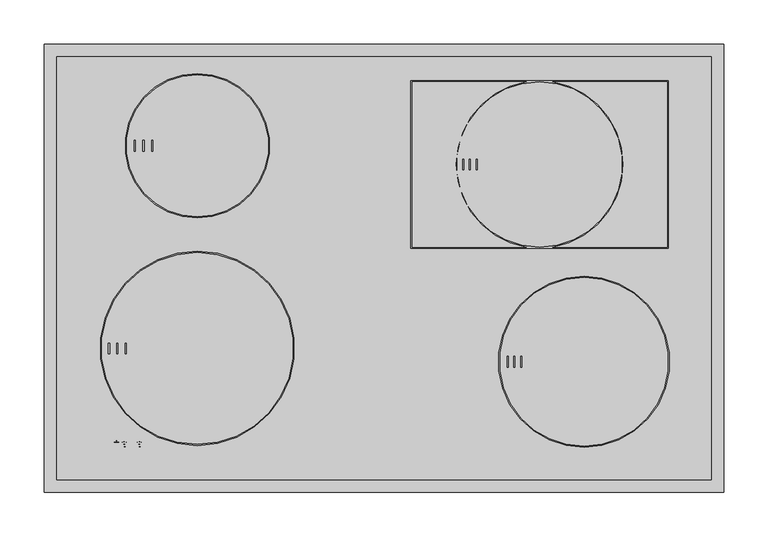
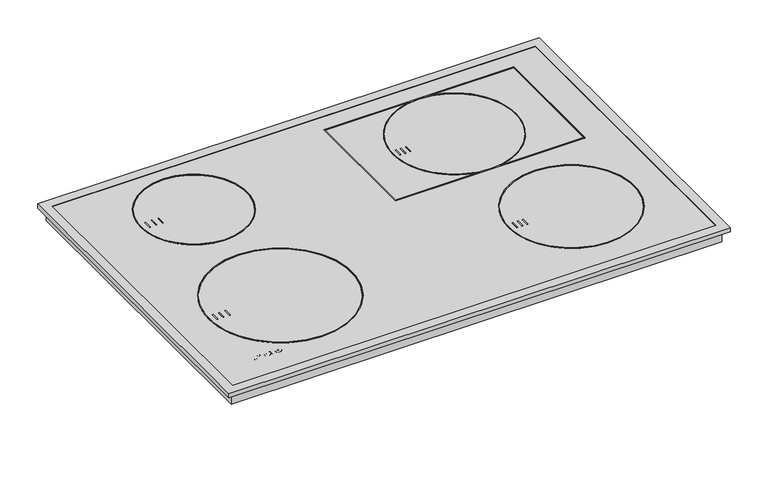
"""IFC4 building model written with IfcOpenShell, lengths in millimetres: proxy geometry, 11153870_I_KM7210FR : 26721010_I_11153870_KM7210FR."""

from ifc_helpers import new_model, si_unit, point, frame, frame_2d, origin, place, context, project, spatial, polyline, circle_curve, ellipse_curve, trimmed, segment, composite_curve, outline, extrude, faceted_brep, source, transform, mapped, element, save
from ifc_brep_helpers import plane_surface, cylinder_surface, revolved_surface, extruded_surface, advanced_brep


def specialty_equipment_fa1b22ea(model_context):
    return source(origin(), model_context, "Body", "SolidModel", [
        extrude(outline(polyline([(374.0, 496.0), (374.0, 8.0), (-374.0, 8.0), (-374.0, 496.0), (374.0, 496.0)])), frame((0.0, 0.0, -18.0), z_axis=(0.0, 0.0, 1.0), x_axis=(1.0, 0.0, 0.0)), (0.0, 0.0, 1.0), 20.0),
        extrude(outline(polyline([(-192.8, 325.7), (-214.2, 325.7), (-214.2, 409.1), (-192.8, 409.1), (-192.8, 459.3), (213.2, 459.3), (213.2, 88.3), (-192.8, 88.3), (-192.8, 325.7)])), frame((0.0, 0.0, -47.7), z_axis=(0.0, 0.0, 1.0), x_axis=(1.0, 0.0, 0.0)), (0.0, 0.0, 1.0), 29.7),
        extrude(outline(polyline([(379.0, 498.0), (379.0, 1.0), (-379.0, 1.0), (-379.0, 498.0), (379.0, 498.0)])), frame((0.0, 0.0, 2.0), z_axis=(0.0, 0.0, 1.0), x_axis=(1.0, 0.0, 0.0)), (0.0, 0.0, 1.0), 4.0),
        faceted_brep([(367.9, 489.9, 7.0), (367.9, 489.9, 6.0), (367.9, 14.1, 6.0), (367.9, 14.1, 7.0), (382.0, 504.0, 0.0), (382.0, 504.0, 7.0), (382.0, 0.0, 7.0), (382.0, 0.0, 0.0), (381.0, 503.0, 6.0), (381.0, 503.0, 0.0), (381.0, 1.0, 0.0), (381.0, 1.0, 6.0), (-367.9, 14.1, 6.0), (-367.9, 14.1, 7.0), (-382.0, 0.0, 7.0), (-382.0, 0.0, 0.0), (-381.0, 1.0, 0.0), (-381.0, 1.0, 6.0), (-367.9, 489.9, 6.0), (-367.9, 489.9, 7.0), (-382.0, 504.0, 7.0), (-382.0, 504.0, 0.0), (-381.0, 503.0, 0.0), (-381.0, 503.0, 6.0)], [[[0, 1, 2, 3]], [[4, 5, 6, 7]], [[8, 9, 10, 11]], [[3, 2, 12, 13]], [[7, 6, 14, 15]], [[11, 10, 16, 17]], [[13, 12, 18, 19]], [[15, 14, 20, 21]], [[17, 16, 22, 23]], [[19, 18, 1, 0]], [[5, 20, 14, 6], [3, 13, 19, 0]], [[21, 20, 5, 4]], [[7, 15, 21, 4], [9, 22, 16, 10]], [[23, 22, 9, 8]], [[11, 17, 23, 8], [1, 18, 12, 2]]]),
        extrude(outline(polyline([(151.2772603, 422.5), (143.9, 422.5), (143.9, 423.7557039), (150.0215564, 423.7557039), (150.0215564, 427.0519266), (144.370889, 427.0519266), (144.370889, 428.3076304), (150.0215564, 428.3076304), (150.0215564, 431.2899271), (144.056963, 431.2899271), (144.056963, 432.545631), (151.2772603, 432.545631), (151.2772603, 422.5)])), frame((0.0, 0.0, -78.7), z_axis=(0.0, 0.0, 1.0), x_axis=(1.0, 0.0, 0.0)), (0.0, 0.0, 1.0), 1.0),
        extrude(outline(polyline([(142.0164442, 422.5), (135.7379248, 422.5), (135.7379248, 423.7557039), (140.7607403, 423.7557039), (140.7607403, 432.545631), (142.0164442, 432.545631), (142.0164442, 422.5)])), frame((0.0, 0.0, -78.7), z_axis=(0.0, 0.0, 1.0), x_axis=(1.0, 0.0, 0.0)), (0.0, 0.0, 1.0), 1.0),
        extrude(outline(composite_curve([segment(trimmed(circle_curve(frame_2d((143.9, 427.5)), 7.5), [point((143.9, 435.0))], [point((143.9, 420.0))], False, "CARTESIAN"), True, "CONTINUOUS"), segment(trimmed(circle_curve(frame_2d((143.9, 427.5)), 7.5), [point((143.9, 420.0))], [point((143.9, 435.0))], False, "CARTESIAN"), True, "CONTINUOUS")], self_intersect=False)), frame((0.0, 0.0, -77.7), z_axis=(0.0, 0.0, 1.0), x_axis=(1.0, 0.0, 0.0)), (0.0, 0.0, 1.0), 30.0),
        extrude(outline(polyline([(103.8, 375.0), (105.0, 375.0), (105.0, 363.0), (103.8, 363.0), (103.8, 375.0)])), frame((0.0, 0.0, 6.0), z_axis=(0.0, 0.0, 1.0), x_axis=(1.0, 0.0, 0.0)), (0.0, 0.0, 1.0), 1.0),
        extrude(outline(polyline([(96.1, 375.0), (97.3, 375.0), (97.3, 363.0), (96.1, 363.0), (96.1, 375.0)])), frame((0.0, 0.0, 6.0), z_axis=(0.0, 0.0, 1.0), x_axis=(1.0, 0.0, 0.0)), (0.0, 0.0, 1.0), 1.0),
        extrude(outline(polyline([(88.4, 375.0), (89.6, 375.0), (89.6, 363.0), (88.4, 363.0), (88.4, 375.0)])), frame((0.0, 0.0, 6.0), z_axis=(0.0, 0.0, 1.0), x_axis=(1.0, 0.0, 0.0)), (0.0, 0.0, 1.0), 1.0),
        extrude(outline(polyline([(319.7, 463.2), (319.7, 274.8), (30.3, 274.8), (30.3, 463.2), (319.7, 463.2)]), holes=[composite_curve([segment(trimmed(circle_curve(frame_2d((175.0, 369.0)), 93.0), [point((175.0, 462.0))], [point((175.0, 276.0))], True, "CARTESIAN"), True, "CONTINUOUS"), segment(trimmed(circle_curve(frame_2d((175.0, 369.0)), 93.0), [point((175.0, 276.0))], [point((175.0, 462.0))], True, "CARTESIAN"), True, "CONTINUOUS")], self_intersect=False), composite_curve([segment(trimmed(circle_curve(frame_2d((175.0, 369.0)), 94.2), [point((189.9879952, 462.0))], [point((189.9879952, 276.0))], False, "CARTESIAN"), True, "CONTINUOUS"), segment(polyline([(189.9879952, 276.0), (318.5, 276.0), (318.5, 462.0), (189.9879952, 462.0)]), True, "CONTINUOUS")], self_intersect=False), composite_curve([segment(trimmed(circle_curve(frame_2d((175.0, 369.0)), 94.2), [point((160.0120048, 276.0))], [point((160.0120048, 462.0))], False, "CARTESIAN"), True, "CONTINUOUS"), segment(polyline([(160.0120048, 462.0), (31.5, 462.0), (31.5, 276.0), (160.0120048, 276.0)]), True, "CONTINUOUS")], self_intersect=False)]), frame((0.0, 0.0, 6.0), z_axis=(0.0, 0.0, 1.0), x_axis=(1.0, 0.0, 0.0)), (0.0, 0.0, 1.0), 1.0),
        extrude(outline(composite_curve([segment(trimmed(circle_curve(frame_2d((-210.0, 390.0)), 81.2), [point((-210.0, 471.2))], [point((-210.0, 308.8))], False, "CARTESIAN"), True, "CONTINUOUS"), segment(trimmed(circle_curve(frame_2d((-210.0, 390.0)), 81.2), [point((-210.0, 308.8))], [point((-210.0, 471.2))], False, "CARTESIAN"), True, "CONTINUOUS")], self_intersect=False), holes=[composite_curve([segment(trimmed(circle_curve(frame_2d((-210.0, 390.0)), 80.0), [point((-210.0, 470.0))], [point((-210.0, 310.0))], True, "CARTESIAN"), True, "CONTINUOUS"), segment(trimmed(circle_curve(frame_2d((-210.0, 390.0)), 80.0), [point((-210.0, 310.0))], [point((-210.0, 470.0))], True, "CARTESIAN"), True, "CONTINUOUS")], self_intersect=False)]), frame((0.0, 0.0, 6.0), z_axis=(0.0, 0.0, 1.0), x_axis=(1.0, 0.0, 0.0)), (0.0, 0.0, 1.0), 1.0),
        extrude(outline(polyline([(-261.2, 396.0), (-260.0, 396.0), (-260.0, 384.0), (-261.2, 384.0), (-261.2, 396.0)])), frame((0.0, 0.0, 6.0), z_axis=(0.0, 0.0, 1.0), x_axis=(1.0, 0.0, 0.0)), (0.0, 0.0, 1.0), 1.0),
        extrude(outline(polyline([(-271.2, 396.0), (-270.0, 396.0), (-270.0, 384.0), (-271.2, 384.0), (-271.2, 396.0)])), frame((0.0, 0.0, 6.0), z_axis=(0.0, 0.0, 1.0), x_axis=(1.0, 0.0, 0.0)), (0.0, 0.0, 1.0), 1.0),
        extrude(outline(polyline([(-281.2, 396.0), (-280.0, 396.0), (-280.0, 384.0), (-281.2, 384.0), (-281.2, 396.0)])), frame((0.0, 0.0, 6.0), z_axis=(0.0, 0.0, 1.0), x_axis=(1.0, 0.0, 0.0)), (0.0, 0.0, 1.0), 1.0),
        extrude(outline(composite_curve([segment(trimmed(circle_curve(frame_2d((225.0, 147.0)), 96.2), [point((225.0, 243.2))], [point((225.0, 50.8))], False, "CARTESIAN"), True, "CONTINUOUS"), segment(trimmed(circle_curve(frame_2d((225.0, 147.0)), 96.2), [point((225.0, 50.8))], [point((225.0, 243.2))], False, "CARTESIAN"), True, "CONTINUOUS")], self_intersect=False), holes=[composite_curve([segment(trimmed(circle_curve(frame_2d((225.0, 147.0)), 95.0), [point((225.0, 242.0))], [point((225.0, 52.0))], True, "CARTESIAN"), True, "CONTINUOUS"), segment(trimmed(circle_curve(frame_2d((225.0, 147.0)), 95.0), [point((225.0, 52.0))], [point((225.0, 242.0))], True, "CARTESIAN"), True, "CONTINUOUS")], self_intersect=False)]), frame((0.0, 0.0, 6.0), z_axis=(0.0, 0.0, 1.0), x_axis=(1.0, 0.0, 0.0)), (0.0, 0.0, 1.0), 1.0),
        extrude(outline(polyline([(153.8, 153.0), (155.0, 153.0), (155.0, 141.0), (153.8, 141.0), (153.8, 153.0)])), frame((0.0, 0.0, 6.0), z_axis=(0.0, 0.0, 1.0), x_axis=(1.0, 0.0, 0.0)), (0.0, 0.0, 1.0), 1.0),
        extrude(outline(polyline([(146.1, 153.0), (147.3, 153.0), (147.3, 141.0), (146.1, 141.0), (146.1, 153.0)])), frame((0.0, 0.0, 6.0), z_axis=(0.0, 0.0, 1.0), x_axis=(1.0, 0.0, 0.0)), (0.0, 0.0, 1.0), 1.0),
        extrude(outline(polyline([(138.4, 153.0), (139.6, 153.0), (139.6, 141.0), (138.4, 141.0), (138.4, 153.0)])), frame((0.0, 0.0, 6.0), z_axis=(0.0, 0.0, 1.0), x_axis=(1.0, 0.0, 0.0)), (0.0, 0.0, 1.0), 1.0),
        extrude(outline(composite_curve([segment(trimmed(circle_curve(frame_2d((-210.0, 162.0)), 109.2), [point((-210.0, 271.2))], [point((-210.0, 52.8))], False, "CARTESIAN"), True, "CONTINUOUS"), segment(trimmed(circle_curve(frame_2d((-210.0, 162.0)), 109.2), [point((-210.0, 52.8))], [point((-210.0, 271.2))], False, "CARTESIAN"), True, "CONTINUOUS")], self_intersect=False), holes=[composite_curve([segment(trimmed(circle_curve(frame_2d((-210.0, 162.0)), 108.0), [point((-210.0, 270.0))], [point((-210.0, 54.0))], True, "CARTESIAN"), True, "CONTINUOUS"), segment(trimmed(circle_curve(frame_2d((-210.0, 162.0)), 108.0), [point((-210.0, 54.0))], [point((-210.0, 270.0))], True, "CARTESIAN"), True, "CONTINUOUS")], self_intersect=False)]), frame((0.0, 0.0, 6.0), z_axis=(0.0, 0.0, 1.0), x_axis=(1.0, 0.0, 0.0)), (0.0, 0.0, 1.0), 1.0),
        extrude(outline(polyline([(-310.0, 168.0), (-308.8, 168.0), (-308.8, 156.0), (-310.0, 156.0), (-310.0, 168.0)])), frame((0.0, 0.0, 6.0), z_axis=(0.0, 0.0, 1.0), x_axis=(1.0, 0.0, 0.0)), (0.0, 0.0, 1.0), 1.0),
        extrude(outline(polyline([(-300.6, 168.0), (-299.4, 168.0), (-299.4, 156.0), (-300.6, 156.0), (-300.6, 168.0)])), frame((0.0, 0.0, 6.0), z_axis=(0.0, 0.0, 1.0), x_axis=(1.0, 0.0, 0.0)), (0.0, 0.0, 1.0), 1.0),
        extrude(outline(polyline([(-291.2, 168.0), (-290.0, 168.0), (-290.0, 156.0), (-291.2, 156.0), (-291.2, 168.0)])), frame((0.0, 0.0, 6.0), z_axis=(0.0, 0.0, 1.0), x_axis=(1.0, 0.0, 0.0)), (0.0, 0.0, 1.0), 1.0),
        advanced_brep(
        [(-276.14, 52.3948833, 6.0802537), (-276.14, 53.2028828, 6.0811551), (-270.788, 53.2028828, 6.0811551), (-280.1, 53.2028828, 6.0811551), (-277.9, 50.4988845, 6.0781386), (-270.924, 52.3948833, 6.0802537), (-273.34, 52.3948833, 6.0802537), (-275.244, 51.4988838, 6.0792542), (-276.14, 54.2268821, 6.0822974), (-276.14, 55.0988816, 6.0832701), (-274.772, 55.0988816, 6.0832701), (-274.772, 54.2268821, 6.0822974), (-276.14, 52.3959988, 5.0802543), (-275.244, 51.4999994, 5.0792548), (-273.34, 52.3959988, 5.0802543), (-270.924, 52.3959988, 5.0802543), (-277.9, 50.5, 5.0781393), (-280.1, 53.2039983, 5.0811557), (-270.788, 53.2039983, 5.0811557), (-276.14, 53.2039983, 5.0811557), (-276.14, 54.2279977, 5.082298), (-274.772, 54.2279977, 5.082298), (-274.772, 55.0999971, 5.0832707), (-276.14, 55.0999971, 5.0832707)],
        [
            (0, 1),
            (1, 2),
            (2, 3, ellipse_curve(frame((-275.444, 53.2028828, 6.0811551), z_axis=(0.0, -0.0011155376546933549, 0.9999993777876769), x_axis=(-1.0, 0.0, 0.0)), 4.656, 3.848)),
            (3, 4, circle_curve(frame((-277.0039564, 53.4748826, 6.0814585), z_axis=(0.0, -0.0011155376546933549, 0.9999993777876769), x_axis=(0.0, -0.9999993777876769, -0.0011155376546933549)), 3.1079688)),
            (4, 5, circle_curve(frame((-275.5372064, 55.5868813, 6.0838145), z_axis=(0.0, -0.0011155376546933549, 0.9999993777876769), x_axis=(0.0, -0.9999993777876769, -0.0011155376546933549)), 5.6098607)),
            (5, 6),
            (6, 7, circle_curve(frame((-274.8529412, 53.1388828, 6.0810837), z_axis=(0.0, 0.0011155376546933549, -0.9999993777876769), x_axis=(0.0, -0.9999993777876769, -0.0011155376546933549)), 1.6859795)),
            (7, 0, circle_curve(frame((-275.244, 52.3948833, 6.0802537), z_axis=(0.0, 0.0011155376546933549, -0.9999993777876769), x_axis=(0.0, -0.9999993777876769, -0.0011155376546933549)), 0.896)),
            (8, 9),
            (9, 10, circle_curve(frame((-275.456, 55.0988816, 6.0832701), z_axis=(0.0, 0.0011155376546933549, -0.9999993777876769), x_axis=(0.0, -0.9999993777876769, -0.0011155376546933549)), 0.684)),
            (10, 11),
            (11, 8),
            (12, 13, circle_curve(frame((-275.244, 52.3959988, 5.0802543), z_axis=(0.0, -0.0011155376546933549, 0.9999993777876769), x_axis=(0.0, -0.9999993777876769, -0.0011155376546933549)), 0.896)),
            (13, 14, circle_curve(frame((-274.8529412, 53.1399984, 5.0810843), z_axis=(0.0, -0.0011155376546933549, 0.9999993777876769), x_axis=(0.0, -0.9999993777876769, -0.0011155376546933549)), 1.6859795)),
            (14, 15),
            (15, 16, circle_curve(frame((-275.5372064, 55.5879968, 5.0838151), z_axis=(0.0, 0.0011155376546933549, -0.9999993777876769), x_axis=(0.0, -0.9999993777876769, -0.0011155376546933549)), 5.6098607)),
            (16, 17, circle_curve(frame((-277.0039564, 53.4759981, 5.0814591), z_axis=(0.0, 0.0011155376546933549, -0.9999993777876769), x_axis=(0.0, -0.9999993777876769, -0.0011155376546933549)), 3.1079688)),
            (17, 18, ellipse_curve(frame((-275.444, 53.2039983, 5.0811557), z_axis=(0.0, 0.0011155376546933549, -0.9999993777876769), x_axis=(-1.0, 0.0, 0.0)), 4.656, 3.848)),
            (18, 19),
            (19, 12),
            (20, 21),
            (21, 22),
            (22, 23, circle_curve(frame((-275.456, 55.0999971, 5.0832707), z_axis=(0.0, -0.0011155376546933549, 0.9999993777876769), x_axis=(0.0, -0.9999993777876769, -0.0011155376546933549)), 0.684)),
            (23, 20),
            (0, 12),
            (19, 1),
            (18, 2),
            (5, 15),
            (14, 6),
            (17, 3),
            (13, 7),
            (16, 4),
            (8, 20),
            (23, 9),
            (22, 10),
            (21, 11),
        ],
        [
            plane_surface(frame((-276.14, 53.2028828, 6.0811551), z_axis=(0.0, -0.0011155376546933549, 0.9999993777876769), x_axis=(0.0, 0.9999993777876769, 0.0011155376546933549))),
            plane_surface(frame((-276.14, 53.2039983, 5.0811557), z_axis=(0.0, 0.0011155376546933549, -0.9999993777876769), x_axis=(0.0, -0.9999993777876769, -0.0011155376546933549))),
            plane_surface(frame((-276.14, 52.3948833, 6.0802537), z_axis=(1.0000000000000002, 0.0, 0.0), x_axis=(0.0, 0.001115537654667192, -0.999999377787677))),
            plane_surface(frame((-276.14, 53.2028828, 6.0811551), z_axis=(0.0, -0.999999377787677, -0.001115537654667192), x_axis=(0.0, 0.001115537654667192, -0.999999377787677))),
            plane_surface(frame((-270.924, 52.3948833, 6.0802537), z_axis=(0.0, 0.999999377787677, 0.001115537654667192), x_axis=(0.0, 0.001115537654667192, -0.999999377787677))),
            extruded_surface(trimmed(ellipse_curve(frame((-275.444, 53.2051139, 4.0811563), z_axis=(0.0, -0.0011155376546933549, 0.9999993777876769), x_axis=(-1.0, 0.0, 0.0)), 4.656, 3.848), [point((-270.788, 53.2051139, 4.0811563))], [point((-280.1, 53.2051139, 4.0811563))], True, "CARTESIAN"), (0.0, -0.001115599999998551, 0.9999994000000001), 1.00000002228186),
            revolved_surface(polyline([(-274.8529412, 51.454019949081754, 5.079203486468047), (-274.8529412, 51.45290441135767, 6.079202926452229)]), (-274.8529412, 53.1399984, 5.0810843), (0.0, 0.0011155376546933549, -0.9999993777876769)),
            revolved_surface(polyline([(-275.244, 51.49999935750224, 5.079254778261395), (-275.244, 51.49888381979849, 6.079254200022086)]), (-275.244, 52.3959988, 5.0802543), (0.0, 0.0011155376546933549, -0.9999993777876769)),
            cylinder_surface(frame((-277.0039564, 53.4759981, 5.0814591), z_axis=(0.0, -0.0011155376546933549, 0.9999993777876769), x_axis=(0.0, -0.9999993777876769, -0.0011155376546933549)), 3.1079688),
            cylinder_surface(frame((-275.5372064, 55.5879968, 5.0838151), z_axis=(0.0, -0.0011155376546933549, 0.9999993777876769), x_axis=(0.0, -0.9999993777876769, -0.0011155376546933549)), 5.6098607),
            plane_surface(frame((-276.14, 54.2268821, 6.0822974), z_axis=(1.0000000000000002, 0.0, 0.0), x_axis=(0.0, 0.001115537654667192, -0.999999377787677))),
            revolved_surface(polyline([(-275.456, 54.415997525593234, 5.08250767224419), (-275.456, 54.41488198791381, 6.082507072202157)]), (-275.456, 55.0999971, 5.0832707), (0.0, 0.0011155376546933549, -0.9999993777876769)),
            plane_surface(frame((-274.772, 55.0988816, 6.0832701), z_axis=(-1.0000000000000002, 0.0, 0.0), x_axis=(0.0, 0.001115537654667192, -0.999999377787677))),
            plane_surface(frame((-274.772, 54.2268821, 6.0822974), z_axis=(0.0, 0.999999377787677, 0.001115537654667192), x_axis=(0.0, 0.001115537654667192, -0.999999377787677))),
        ],
        [
            (0, [[1, 2, 3, 4, 5, 6, 7, 8], [9, 10, 11, 12]]),
            (1, [[13, 14, 15, 16, 17, 18, 19, 20], [21, 22, 23, 24]]),
            (2, [[-1, 25, -20, 26]]),
            (3, [[-2, -26, -19, 27]]),
            (4, [[-6, 28, -15, 29]]),
            (5, [[-3, -27, -18, 30]]),
            (6, [[-7, -29, -14, 31]]),
            (7, [[-8, -31, -13, -25]]),
            (8, [[-4, -30, -17, 32]]),
            (9, [[-5, -32, -16, -28]]),
            (10, [[-9, 33, -24, 34]]),
            (11, [[-10, -34, -23, 35]]),
            (12, [[-11, -35, -22, 36]]),
            (13, [[-12, -36, -21, -33]]),
        ],
    ),
        advanced_brep(
        [(-292.836, 52.3948833, 6.0802537), (-292.836, 53.2028828, 6.0811551), (-287.484, 53.2028828, 6.0811551), (-296.796, 53.2028828, 6.0811551), (-294.596, 50.4988845, 6.0781386), (-287.62, 52.3948833, 6.0802537), (-290.036, 52.3948833, 6.0802537), (-291.94, 51.4988838, 6.0792542), (-292.836, 54.2268821, 6.0822974), (-292.836, 55.0988816, 6.0832701), (-291.468, 55.0988816, 6.0832701), (-291.468, 54.2268821, 6.0822974), (-292.836, 52.3959988, 5.0802543), (-291.94, 51.4999994, 5.0792548), (-290.036, 52.3959988, 5.0802543), (-287.62, 52.3959988, 5.0802543), (-294.596, 50.5, 5.0781393), (-296.796, 53.2039983, 5.0811557), (-287.484, 53.2039983, 5.0811557), (-292.836, 53.2039983, 5.0811557), (-292.836, 54.2279977, 5.082298), (-291.468, 54.2279977, 5.082298), (-291.468, 55.0999971, 5.0832707), (-292.836, 55.0999971, 5.0832707)],
        [
            (0, 1),
            (1, 2),
            (2, 3, ellipse_curve(frame((-292.14, 53.2028828, 6.0811551), z_axis=(0.0, -0.0011155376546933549, 0.9999993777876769), x_axis=(-1.0, 0.0, 0.0)), 4.656, 3.848)),
            (3, 4, circle_curve(frame((-293.6999564, 53.4748826, 6.0814585), z_axis=(0.0, -0.0011155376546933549, 0.9999993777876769), x_axis=(0.0, -0.9999993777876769, -0.0011155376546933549)), 3.1079688)),
            (4, 5, circle_curve(frame((-292.2332064, 55.5868813, 6.0838145), z_axis=(0.0, -0.0011155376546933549, 0.9999993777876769), x_axis=(0.0, -0.9999993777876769, -0.0011155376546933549)), 5.6098607)),
            (5, 6),
            (6, 7, circle_curve(frame((-291.5489412, 53.1388828, 6.0810837), z_axis=(0.0, 0.0011155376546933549, -0.9999993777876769), x_axis=(0.0, -0.9999993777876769, -0.0011155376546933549)), 1.6859795)),
            (7, 0, circle_curve(frame((-291.94, 52.3948833, 6.0802537), z_axis=(0.0, 0.0011155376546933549, -0.9999993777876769), x_axis=(0.0, -0.9999993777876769, -0.0011155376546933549)), 0.896)),
            (8, 9),
            (9, 10, circle_curve(frame((-292.152, 55.0988816, 6.0832701), z_axis=(0.0, 0.0011155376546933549, -0.9999993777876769), x_axis=(0.0, -0.9999993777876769, -0.0011155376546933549)), 0.684)),
            (10, 11),
            (11, 8),
            (12, 13, circle_curve(frame((-291.94, 52.3959988, 5.0802543), z_axis=(0.0, -0.0011155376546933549, 0.9999993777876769), x_axis=(0.0, -0.9999993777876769, -0.0011155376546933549)), 0.896)),
            (13, 14, circle_curve(frame((-291.5489412, 53.1399984, 5.0810843), z_axis=(0.0, -0.0011155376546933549, 0.9999993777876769), x_axis=(0.0, -0.9999993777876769, -0.0011155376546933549)), 1.6859795)),
            (14, 15),
            (15, 16, circle_curve(frame((-292.2332064, 55.5879968, 5.0838151), z_axis=(0.0, 0.0011155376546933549, -0.9999993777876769), x_axis=(0.0, -0.9999993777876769, -0.0011155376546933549)), 5.6098607)),
            (16, 17, circle_curve(frame((-293.6999564, 53.4759981, 5.0814591), z_axis=(0.0, 0.0011155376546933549, -0.9999993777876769), x_axis=(0.0, -0.9999993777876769, -0.0011155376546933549)), 3.1079688)),
            (17, 18, ellipse_curve(frame((-292.14, 53.2039983, 5.0811557), z_axis=(0.0, 0.0011155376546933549, -0.9999993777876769), x_axis=(-1.0, 0.0, 0.0)), 4.656, 3.848)),
            (18, 19),
            (19, 12),
            (20, 21),
            (21, 22),
            (22, 23, circle_curve(frame((-292.152, 55.0999971, 5.0832707), z_axis=(0.0, -0.0011155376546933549, 0.9999993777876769), x_axis=(0.0, -0.9999993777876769, -0.0011155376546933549)), 0.684)),
            (23, 20),
            (0, 12),
            (19, 1),
            (18, 2),
            (5, 15),
            (14, 6),
            (17, 3),
            (13, 7),
            (16, 4),
            (8, 20),
            (23, 9),
            (22, 10),
            (21, 11),
        ],
        [
            plane_surface(frame((-292.836, 53.2028828, 6.0811551), z_axis=(0.0, -0.0011155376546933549, 0.9999993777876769), x_axis=(0.0, 0.9999993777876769, 0.0011155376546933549))),
            plane_surface(frame((-292.836, 53.2039983, 5.0811557), z_axis=(0.0, 0.0011155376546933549, -0.9999993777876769), x_axis=(0.0, -0.9999993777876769, -0.0011155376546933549))),
            plane_surface(frame((-292.836, 52.3948833, 6.0802537), z_axis=(1.0000000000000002, 0.0, 0.0), x_axis=(0.0, 0.001115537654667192, -0.999999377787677))),
            plane_surface(frame((-292.836, 53.2028828, 6.0811551), z_axis=(0.0, -0.999999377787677, -0.001115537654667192), x_axis=(0.0, 0.001115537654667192, -0.999999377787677))),
            plane_surface(frame((-287.62, 52.3948833, 6.0802537), z_axis=(0.0, 0.999999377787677, 0.001115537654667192), x_axis=(0.0, 0.001115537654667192, -0.999999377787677))),
            extruded_surface(trimmed(ellipse_curve(frame((-292.14, 53.2051139, 4.0811563), z_axis=(0.0, -0.0011155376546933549, 0.9999993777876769), x_axis=(-1.0, 0.0, 0.0)), 4.656, 3.848), [point((-287.484, 53.2051139, 4.0811563))], [point((-296.796, 53.2051139, 4.0811563))], True, "CARTESIAN"), (0.0, -0.001115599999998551, 0.9999994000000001), 1.00000002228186),
            revolved_surface(polyline([(-291.5489412, 51.454019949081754, 5.079203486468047), (-291.5489412, 51.45290441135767, 6.079202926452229)]), (-291.5489412, 53.1399984, 5.0810843), (0.0, 0.0011155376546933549, -0.9999993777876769)),
            revolved_surface(polyline([(-291.94, 51.49999935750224, 5.079254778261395), (-291.94, 51.49888381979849, 6.079254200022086)]), (-291.94, 52.3959988, 5.0802543), (0.0, 0.0011155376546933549, -0.9999993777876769)),
            cylinder_surface(frame((-293.6999564, 53.4759981, 5.0814591), z_axis=(0.0, -0.0011155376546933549, 0.9999993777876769), x_axis=(0.0, -0.9999993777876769, -0.0011155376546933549)), 3.1079688),
            cylinder_surface(frame((-292.2332064, 55.5879968, 5.0838151), z_axis=(0.0, -0.0011155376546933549, 0.9999993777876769), x_axis=(0.0, -0.9999993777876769, -0.0011155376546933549)), 5.6098607),
            plane_surface(frame((-292.836, 54.2268821, 6.0822974), z_axis=(1.0000000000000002, 0.0, 0.0), x_axis=(0.0, 0.001115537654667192, -0.999999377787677))),
            revolved_surface(polyline([(-292.152, 54.415997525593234, 5.08250767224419), (-292.152, 54.41488198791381, 6.082507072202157)]), (-292.152, 55.0999971, 5.0832707), (0.0, 0.0011155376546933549, -0.9999993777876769)),
            plane_surface(frame((-291.468, 55.0988816, 6.0832701), z_axis=(-1.0000000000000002, 0.0, 0.0), x_axis=(0.0, 0.001115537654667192, -0.999999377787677))),
            plane_surface(frame((-291.468, 54.2268821, 6.0822974), z_axis=(0.0, 0.999999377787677, 0.001115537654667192), x_axis=(0.0, 0.001115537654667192, -0.999999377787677))),
        ],
        [
            (0, [[1, 2, 3, 4, 5, 6, 7, 8], [9, 10, 11, 12]]),
            (1, [[13, 14, 15, 16, 17, 18, 19, 20], [21, 22, 23, 24]]),
            (2, [[-1, 25, -20, 26]]),
            (3, [[-2, -26, -19, 27]]),
            (4, [[-6, 28, -15, 29]]),
            (5, [[-3, -27, -18, 30]]),
            (6, [[-7, -29, -14, 31]]),
            (7, [[-8, -31, -13, -25]]),
            (8, [[-4, -30, -17, 32]]),
            (9, [[-5, -32, -16, -28]]),
            (10, [[-9, 33, -24, 34]]),
            (11, [[-10, -34, -23, 35]]),
            (12, [[-11, -35, -22, 36]]),
            (13, [[-12, -36, -21, -33]]),
        ],
    ),
        extrude(outline(polyline([(0.0, 0.0), (-0.0109086, -2.9993294), (-1.4390415, -2.9920868), (-1.4315307, 0.0), (0.0, 0.0)])), frame((-301.58, 58.0279953, 5.086537), z_axis=(0.0, -0.001115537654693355, 0.9999993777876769), x_axis=(-0.4247202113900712, 0.9053240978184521, 0.0010099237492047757)), (0.0, 0.0, 1.0), 1.0),
        extrude(outline(polyline([(-0.4933908, 2.4141097), (-2.7800844, -2.4601583), (-7.0459741, -0.4588767), (-7.4401145, -1.299018), (-8.6568709, -0.728194), (-5.9760369, 4.9862153), (-4.7592805, 4.4153913), (-5.1636142, 3.5535222), (-2.1941493, 2.1604399), (-1.7898157, 3.022309), (-0.4933908, 2.4141097)])), frame((-301.58, 58.0279953, 5.086537), z_axis=(0.0, -0.001115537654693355, 0.9999993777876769), x_axis=(-0.4247202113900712, 0.9053240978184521, 0.0010099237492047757)), (0.0, 0.0, 1.0), 1.0),
        extrude(outline(polyline([(0.0, 0.0), (0.0, -1.304), (-5.504, -1.304), (-5.504, 5.3519999), (-6.488, 5.3519999), (-6.488, 6.696), (0.0, 6.696), (0.0, 5.3519999), (-0.96, 5.3519999), (-0.96, 0.0), (0.0, 0.0)])), frame((-287.036, 57.1959958, 5.0856089), z_axis=(0.0, -0.0011155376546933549, 0.9999993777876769), x_axis=(-1.0, 0.0, 0.0)), (0.0, 0.0, 1.0), 1.0),
        extrude(outline(polyline([(0.0, 0.0), (0.0, -1.304), (-5.576, -1.304), (-7.92, 1.696), (-10.256, -1.304), (-15.128, -1.304), (-15.128, 0.0), (-14.112, 0.0), (-14.112, 5.3519999), (-15.128, 5.3519999), (-15.128, 6.696), (-8.744, 6.696), (-8.744, 5.3519999), (-9.728, 5.3519999), (-9.728, 1.8807777), (-6.136, 6.696), (-2.56, 1.9488752), (-2.56, 5.3519999), (-3.52, 5.3519999), (-3.52, 6.696), (0.0, 6.696), (0.0, 5.3519999), (-0.968, 5.3519999), (-0.968, 0.0), (0.0, 0.0)])), frame((-319.5, 57.1959958, 5.0856089), z_axis=(0.0, -0.0011155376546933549, 0.9999993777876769), x_axis=(-1.0, 0.0, 0.0)), (0.0, 0.0, 1.0), 1.0),
    ])


if __name__ == "__main__":
    model = new_model("IFC4")
    model_context = context("Model", 3, world=origin())
    ifc_project = project(units=[si_unit("LENGTHUNIT", "METRE", prefix="MILLI")], contexts=[model_context])
    site = spatial("IfcSite", under=ifc_project)
    building = spatial("IfcBuilding", under=site)
    placement = place(None, origin())
    specialty_equipment_shape = specialty_equipment_fa1b22ea(model_context)
    element("IfcBuildingElementProxy", 1, Name="11153870_I_KM7210FR : 26721010_I_11153870_KM7210FR", ObjectType="11153870_I_KM7210FR : 26721010_I_11153870_KM7210FR", at=placement, inside=building, context=model_context, shape_type="MappedRepresentation", body=[
        mapped(specialty_equipment_shape, transform((0.0, 0.0, 0.0), x_axis=(1.0, 0.0, 0.0), y_axis=(0.0, 1.0, 0.0), z_axis=(0.0, 0.0, 1.0))),
    ])
    save(model, "model.ifc")
